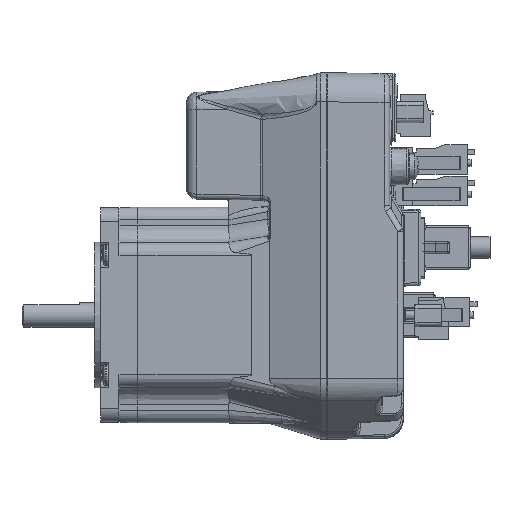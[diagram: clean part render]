
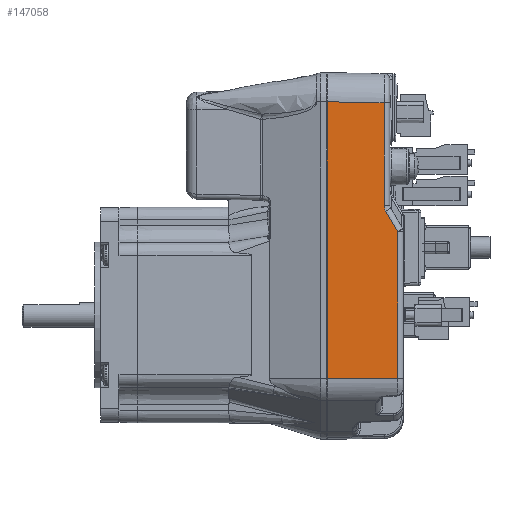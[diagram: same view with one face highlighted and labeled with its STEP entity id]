
A CAD part, left-side view. The second image highlights one B-rep face of the part: STEP entity #147058.
In plain terms, the highlighted planar face has unit normal (-1, -0.018, 0).
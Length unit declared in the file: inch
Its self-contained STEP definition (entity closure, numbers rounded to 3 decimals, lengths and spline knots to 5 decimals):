
#103122=CARTESIAN_POINT('',(-1.27215,0.05895,1.13256));
#103123=VERTEX_POINT('',#103122);
#103124=CARTESIAN_POINT('',(-1.27187,0.04288,1.07256));
#103125=VERTEX_POINT('',#103124);
#103126=CARTESIAN_POINT('',(-1.27006,-0.06105,1.13256));
#103127=DIRECTION('',(-1.,-0.017,0.));
#103128=DIRECTION('',(-0.017,1.,0.));
#103129=AXIS2_PLACEMENT_3D('',#103126,#103127,#103128);
#103130=ELLIPSE('',#103129,0.12002,0.12);
#103131=EDGE_CURVE('',#103123,#103125,#103130,.T.);
#105002=CARTESIAN_POINT('',(-1.28238,0.64488,2.1991));
#105003=VERTEX_POINT('',#105002);
#105083=CARTESIAN_POINT('',(-1.28238,0.64488,-0.65748));
#105084=VERTEX_POINT('',#105083);
#105092=CARTESIAN_POINT('',(-1.28238,0.64488,1.40366));
#105093=DIRECTION('',(0.,0.,-1.));
#105094=VECTOR('',#105093,1.);
#105095=LINE('',#105092,#105094);
#105096=EDGE_CURVE('',#105003,#105084,#105095,.T.);
#107938=CARTESIAN_POINT('',(-1.26971,-0.08092,0.85813));
#107939=VERTEX_POINT('',#107938);
#107940=CARTESIAN_POINT('',(-1.27498,0.22085,1.38083));
#107941=DIRECTION('',(-0.009,0.5,0.866));
#107942=VECTOR('',#107941,1.);
#107943=LINE('',#107940,#107942);
#107944=EDGE_CURVE('',#107939,#103125,#107943,.T.);
#107963=CARTESIAN_POINT('',(-1.26971,-0.08092,-0.6518));
#107964=VERTEX_POINT('',#107963);
#107965=CARTESIAN_POINT('',(-1.27799,0.39334,-0.65551));
#107966=DIRECTION('',(-0.017,1.,-0.008));
#107967=VECTOR('',#107966,1.);
#107968=LINE('',#107965,#107967);
#107969=EDGE_CURVE('',#107964,#105084,#107968,.T.);
#108030=CARTESIAN_POINT('',(-1.26971,-0.08092,0.77274));
#108031=DIRECTION('',(0.,0.,1.));
#108032=VECTOR('',#108031,1.);
#108033=LINE('',#108030,#108032);
#108034=EDGE_CURVE('',#107964,#107939,#108033,.T.);
#147009=CARTESIAN_POINT('',(-1.27215,0.05895,2.18887));
#147010=VERTEX_POINT('',#147009);
#147025=CARTESIAN_POINT('',(-1.27788,0.38744,2.19461));
#147026=DIRECTION('',(-0.017,1.,0.017));
#147027=VECTOR('',#147026,1.);
#147028=LINE('',#147025,#147027);
#147029=EDGE_CURVE('',#147010,#105003,#147028,.T.);
#147039=CARTESIAN_POINT('',(-1.27215,0.05895,1.71992));
#147040=DIRECTION('',(0.,0.,-1.));
#147041=VECTOR('',#147040,1.);
#147042=LINE('',#147039,#147041);
#147043=EDGE_CURVE('',#147010,#103123,#147042,.T.);
#147044=ORIENTED_EDGE('',*,*,#147043,.F.);
#147045=ORIENTED_EDGE('',*,*,#147029,.T.);
#147046=ORIENTED_EDGE('',*,*,#105096,.T.);
#147047=ORIENTED_EDGE('',*,*,#107969,.F.);
#147048=ORIENTED_EDGE('',*,*,#108034,.T.);
#147049=ORIENTED_EDGE('',*,*,#107944,.T.);
#147050=ORIENTED_EDGE('',*,*,#103131,.F.);
#147051=EDGE_LOOP('',(#147044,#147045,#147046,#147047,#147048,#147049,#147050));
#147052=FACE_OUTER_BOUND('',#147051,.T.);
#147053=CARTESIAN_POINT('',(-1.27818,0.40449,2.19866));
#147054=DIRECTION('',(-1.,-0.017,0.));
#147055=DIRECTION('',(-0.017,1.,0.));
#147056=AXIS2_PLACEMENT_3D('',#147053,#147054,#147055);
#147057=PLANE('',#147056);
#147058=ADVANCED_FACE('',(#147052),#147057,.T.);
